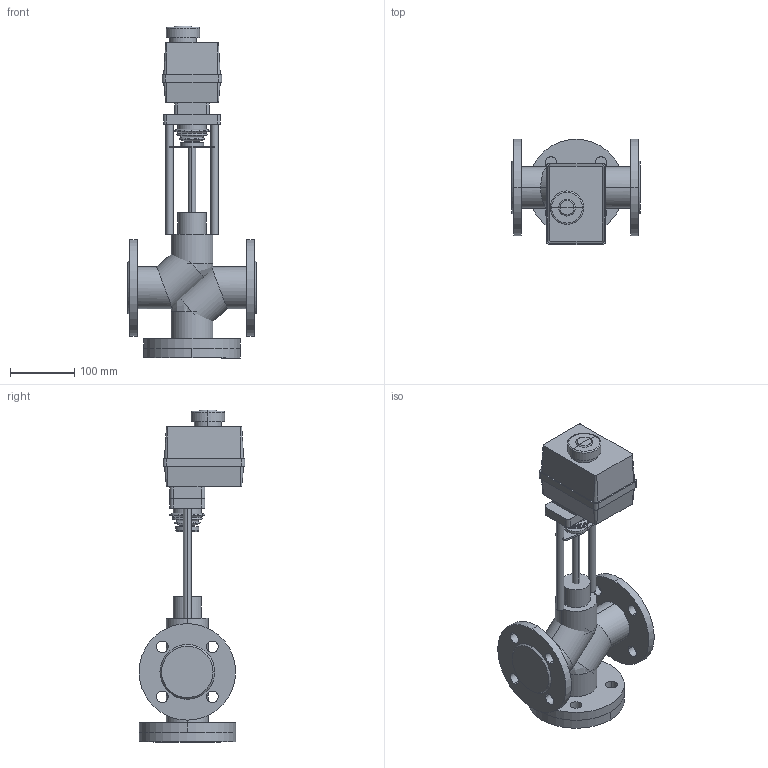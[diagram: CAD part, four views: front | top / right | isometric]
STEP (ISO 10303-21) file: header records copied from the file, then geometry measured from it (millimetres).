
FILE_DESCRIPTION(/* description */ (''),/* implementation_level */ '2;1');
FILE_NAME(/* name */ 'ТРК DN40 PN 1.6 МПа Regada ST0',/* time_stamp */ '2026-07-14T23:17:24+03:00',/* author */ (''),/* organization */ (''),/* preprocessor_version */ 'ST-DEVELOPER v20',/* originating_system */ '',/* authorisation */ '');
FILE_SCHEMA (('AP242_MANAGED_MODEL_BASED_3D_ENGINEERING_MIM_LF { 1 0 10303 442 1 1 4 }'));
Length unit declared in the file: millimetre
Products named in the file (14): TopLevelAssembly; Выдавливание; Модификатор; Модификатор_1; Выдавливание_
1; Выдавливание_
2; Вращение; Выдавливание_
3; Выдавливание_
4; Привод_Regada ST 0; Переход; Объемная геометрия 
присоединена; Полый Выдавливание; Объемная геометрия 
присоединена_1
Assembly tree (13 placements, depth 2):
  TopLevelAssembly
    Выдавливание
    Модификатор
    Модификатор_1
    Выдавливание_
1
    Выдавливание_
2
    Вращение
    Выдавливание_
3
    Выдавливание_
4
    Привод_Regada ST 0
    Переход
    Объемная геометрия 
присоединена
    Полый Выдавливание
    Объемная геометрия 
присоединена_1
Bounding box: 200 x 164.51 x 515.99 mm (x, y, z)
Volume: 3440147.5 mm3; surface area: 472956.7 mm2
Topology: 24 solids, 24 shells, 210 faces, 440 edges, 272 vertices
Faces by surface type: plane 88, cylinder 82, bspline 28, cone 12
Entity records: 6458 total; most frequent: CARTESIAN_POINT 1373, DIRECTION 1078, ORIENTED_EDGE 864, AXIS2_PLACEMENT_3D 437, EDGE_CURVE 432, VERTEX_POINT 272, EDGE_LOOP 240, CIRCLE 220
